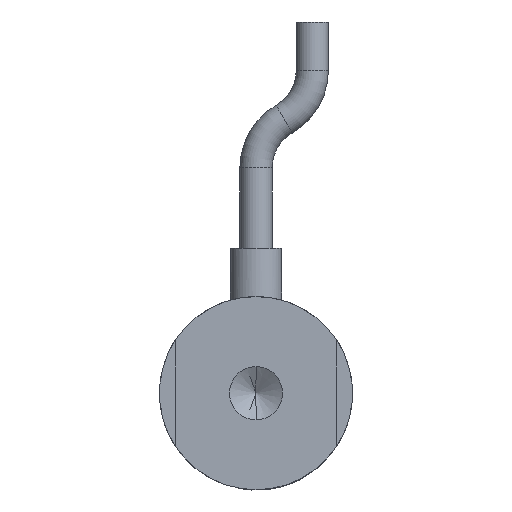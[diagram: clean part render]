
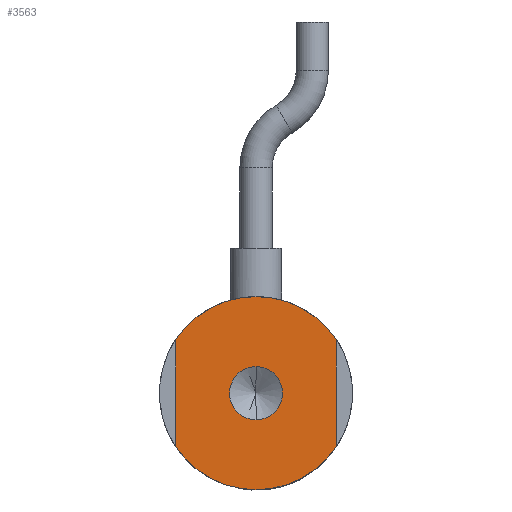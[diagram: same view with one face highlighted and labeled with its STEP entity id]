
A CAD part, front view. The second image highlights one B-rep face of the part: STEP entity #3563.
In plain terms, the highlighted planar face has unit normal (0, -1, 0).
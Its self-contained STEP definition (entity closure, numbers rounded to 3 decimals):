
#133 = ORIENTED_EDGE ( 'NONE', *, *, #5389, .F. ) ;
#1622 = DIRECTION ( 'NONE',  ( 0., 1., 0. ) ) ;
#1696 = AXIS2_PLACEMENT_3D ( 'NONE', #31570, #11828, #34830 ) ;
#1752 = CARTESIAN_POINT ( 'NONE',  ( 0., 0., -1.65 ) ) ;
#2768 = DIRECTION ( 'NONE',  ( 0., 0., 1. ) ) ;
#2824 = DIRECTION ( 'NONE',  ( 0., 1., 0. ) ) ;
#2861 = PLANE ( 'NONE',  #24380 ) ;
#3031 = CARTESIAN_POINT ( 'NONE',  ( 0., 0., 0. ) ) ;
#3563 = ADVANCED_FACE ( 'NONE', ( #13441, #29959 ), #2861, .F. ) ;
#4651 = VERTEX_POINT ( 'NONE', #1752 ) ;
#4871 = ORIENTED_EDGE ( 'NONE', *, *, #12137, .F. ) ;
#5014 = AXIS2_PLACEMENT_3D ( 'NONE', #34452, #14809, #37695 ) ;
#5389 = EDGE_CURVE ( 'NONE', #12669, #34706, #22236, .T. ) ;
#5690 = DIRECTION ( 'NONE',  ( 0., -1., 0. ) ) ;
#6104 = VECTOR ( 'NONE', #41475, 1000. ) ;
#6108 = LINE ( 'NONE', #29371, #39279 ) ;
#9285 = ORIENTED_EDGE ( 'NONE', *, *, #17086, .F. ) ;
#10456 = VERTEX_POINT ( 'NONE', #25012 ) ;
#10827 = CIRCLE ( 'NONE', #28136, 1.65 ) ;
#11828 = DIRECTION ( 'NONE',  ( 0., 1., 0. ) ) ;
#12137 = EDGE_CURVE ( 'NONE', #34706, #23557, #16234, .T. ) ;
#12669 = VERTEX_POINT ( 'NONE', #41652 ) ;
#12965 = EDGE_CURVE ( 'NONE', #28223, #12669, #33156, .T. ) ;
#13438 = CIRCLE ( 'NONE', #1696, 6. ) ;
#13441 = FACE_BOUND ( 'NONE', #32687, .T. ) ;
#14687 = VERTEX_POINT ( 'NONE', #20433 ) ;
#14809 = DIRECTION ( 'NONE',  ( 0., 1., 0. ) ) ;
#15046 = AXIS2_PLACEMENT_3D ( 'NONE', #21880, #1622, #25215 ) ;
#16234 = LINE ( 'NONE', #21922, #6104 ) ;
#16655 = ORIENTED_EDGE ( 'NONE', *, *, #38994, .F. ) ;
#17086 = EDGE_CURVE ( 'NONE', #23557, #39799, #38575, .T. ) ;
#18482 = EDGE_CURVE ( 'NONE', #39799, #14687, #13438, .T. ) ;
#19089 = DIRECTION ( 'NONE',  ( 0., -1., 0. ) ) ;
#20433 = CARTESIAN_POINT ( 'NONE',  ( 5., 0., 3.317 ) ) ;
#21880 = CARTESIAN_POINT ( 'NONE',  ( 0., 0., 0. ) ) ;
#21922 = CARTESIAN_POINT ( 'NONE',  ( -5., 0., 0. ) ) ;
#22236 = CIRCLE ( 'NONE', #40229, 6. ) ;
#23182 = EDGE_CURVE ( 'NONE', #10456, #4651, #10827, .T. ) ;
#23557 = VERTEX_POINT ( 'NONE', #32672 ) ;
#23605 = ORIENTED_EDGE ( 'NONE', *, *, #18482, .F. ) ;
#24380 = AXIS2_PLACEMENT_3D ( 'NONE', #3031, #2824, #2768 ) ;
#25012 = CARTESIAN_POINT ( 'NONE',  ( 0., 0., 1.65 ) ) ;
#25215 = DIRECTION ( 'NONE',  ( 0., 0., 1. ) ) ;
#25622 = ORIENTED_EDGE ( 'NONE', *, *, #23182, .F. ) ;
#25788 = CARTESIAN_POINT ( 'NONE',  ( 0., 0., 0. ) ) ;
#28064 = AXIS2_PLACEMENT_3D ( 'NONE', #25788, #5690, #29087 ) ;
#28136 = AXIS2_PLACEMENT_3D ( 'NONE', #38580, #19089, #41929 ) ;
#28223 = VERTEX_POINT ( 'NONE', #31530 ) ;
#29087 = DIRECTION ( 'NONE',  ( 0., 0., -1. ) ) ;
#29371 = CARTESIAN_POINT ( 'NONE',  ( 5., 0., 0. ) ) ;
#29959 = FACE_OUTER_BOUND ( 'NONE', #39202, .T. ) ;
#31530 = CARTESIAN_POINT ( 'NONE',  ( 5., 0., -3.317 ) ) ;
#31570 = CARTESIAN_POINT ( 'NONE',  ( 0., 0., 0. ) ) ;
#32583 = DIRECTION ( 'NONE',  ( 0., 0., -1. ) ) ;
#32658 = CIRCLE ( 'NONE', #28064, 1.65 ) ;
#32672 = CARTESIAN_POINT ( 'NONE',  ( -5., 0., 3.317 ) ) ;
#32687 = EDGE_LOOP ( 'NONE', ( #16655, #25622 ) ) ;
#33156 = CIRCLE ( 'NONE', #5014, 6. ) ;
#34452 = CARTESIAN_POINT ( 'NONE',  ( 0., 0., 0. ) ) ;
#34706 = VERTEX_POINT ( 'NONE', #38245 ) ;
#34830 = DIRECTION ( 'NONE',  ( 0., 0., 1. ) ) ;
#36277 = ORIENTED_EDGE ( 'NONE', *, *, #39046, .F. ) ;
#36822 = ORIENTED_EDGE ( 'NONE', *, *, #12965, .F. ) ;
#37695 = DIRECTION ( 'NONE',  ( 0., 0., 1. ) ) ;
#38245 = CARTESIAN_POINT ( 'NONE',  ( -5., 0., -3.317 ) ) ;
#38575 = CIRCLE ( 'NONE', #15046, 6. ) ;
#38580 = CARTESIAN_POINT ( 'NONE',  ( 0., 0., 0. ) ) ;
#38583 = CARTESIAN_POINT ( 'NONE',  ( 0., 0., 6. ) ) ;
#38994 = EDGE_CURVE ( 'NONE', #4651, #10456, #32658, .T. ) ;
#39046 = EDGE_CURVE ( 'NONE', #14687, #28223, #6108, .T. ) ;
#39202 = EDGE_LOOP ( 'NONE', ( #4871, #133, #36822, #36277, #23605, #9285 ) ) ;
#39279 = VECTOR ( 'NONE', #32583, 1000. ) ;
#39799 = VERTEX_POINT ( 'NONE', #38583 ) ;
#39874 = DIRECTION ( 'NONE',  ( 0., 0., 1. ) ) ;
#39933 = DIRECTION ( 'NONE',  ( 0., 1., 0. ) ) ;
#39986 = CARTESIAN_POINT ( 'NONE',  ( 0., 0., 0. ) ) ;
#40229 = AXIS2_PLACEMENT_3D ( 'NONE', #39986, #39933, #39874 ) ;
#41475 = DIRECTION ( 'NONE',  ( 0., 0., 1. ) ) ;
#41652 = CARTESIAN_POINT ( 'NONE',  ( 0., 0., -6. ) ) ;
#41929 = DIRECTION ( 'NONE',  ( 0., 0., -1. ) ) ;
